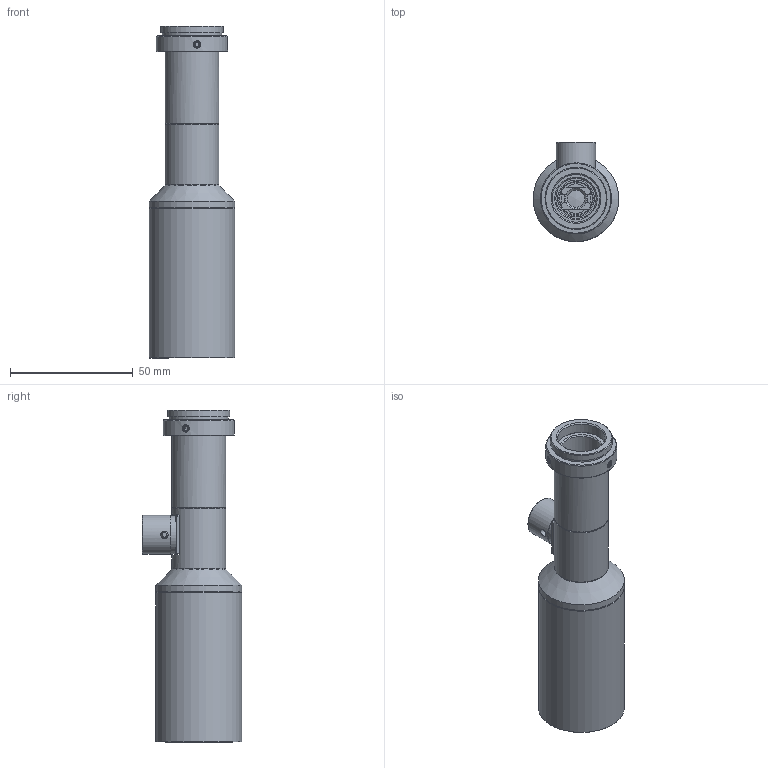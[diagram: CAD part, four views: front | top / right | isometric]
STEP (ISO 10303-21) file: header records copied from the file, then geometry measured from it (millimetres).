
FILE_DESCRIPTION(('STEP AP214'),'1');
FILE_NAME('RTK-05F-M110.stp','2026-07-30T01:25:05',(' '),(' '),'Spatial InterOp 3D',' ',' ');
FILE_SCHEMA(('AUTOMOTIVE_DESIGN { 1 0 10303 214 1 1 1 1 }'));
Length unit declared in the file: metre
Products named in the file (2): RTK-05F-M110; Component
Assembly tree (1 placements, depth 2):
  RTK-05F-M110
    Component
Bounding box: 35 x 40.5 x 135.43 mm (x, y, z)
Volume: 43385.7 mm3; surface area: 29451 mm2
Topology: 1 solids, 15 shells, 391 faces, 907 edges, 592 vertices
Faces by surface type: plane 192, cone 91, cylinder 91, torus 8, sphere 6, bspline 3
Full cylindrical faces by diameter (mm): 1.7 x8, 1.8 x4, 2.5 x6, 3 x3, 6.5 x1, 7 x1, 8 x1, 8.7 x1, 9 x1, 9.5 x1, 12 x1, 12.5 x1, 13 x1, 13.4 x1, 13.9 x1, 14.2 x2, 14.7 x1, 15 x1, 15.5 x1, 16 x1, 16.4 x1, 17.2 x2, 17.4 x1, 18 x1, 18.2 x2, 19 x4, 19.4 x1, 22 x4, 24.12 x1, 25.32 x1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
Entity records: 14169 total; most frequent: CARTESIAN_POINT 2880, DIRECTION 1754, ORIENTED_EDGE 1394, AXIS2_PLACEMENT_3D 752, EDGE_CURVE 697, EDGE_LOOP 606, VERTEX_POINT 530, FACE_OUTER_BOUND 475
